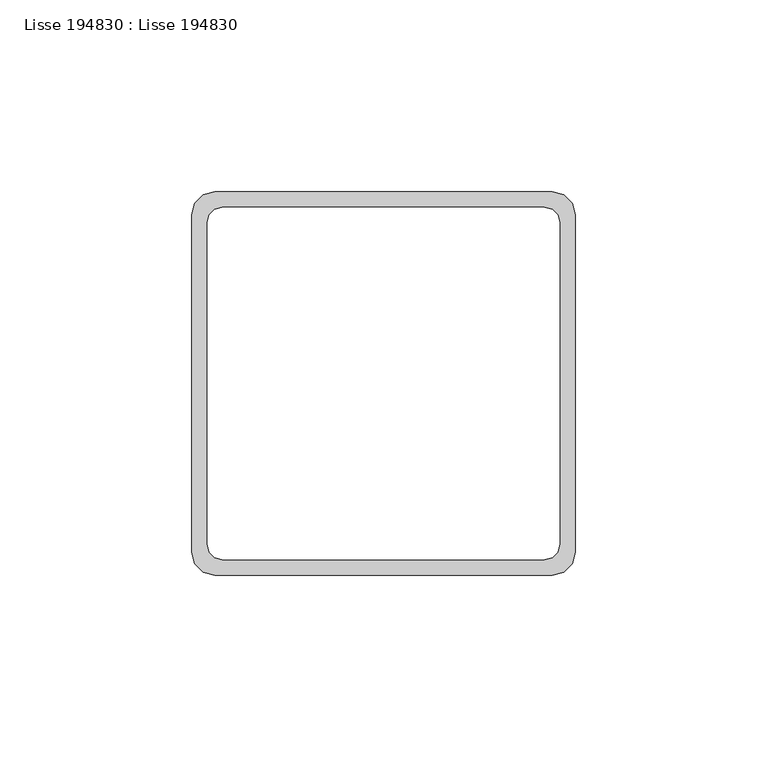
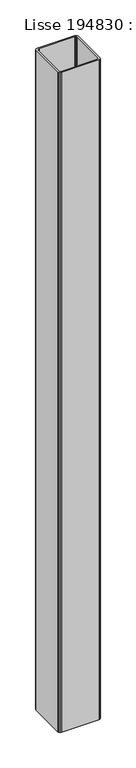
"""IFC4 building model written with IfcOpenShell, lengths in millimetres: beam geometry, Lisse 194830 : Lisse 194830."""

from ifc_helpers import new_model, si_unit, frame, origin, place, context, project, spatial, polyline, outline, extrude, source, transform, mapped, element, save


def lisse_194830_lisse_194830_e39f51cb(model_context):
    return source(origin(), model_context, "Body", "SweptSolid", [
        extrude(outline(polyline([(-180.0000001, -36506.0), (-179.1961526, -36503.0), (-177.0000001, -36500.8038476), (-174.0000001, -36500.0), (-86.0000001, -36500.0), (-83.0000001, -36500.8038476), (-80.8038477, -36503.0), (-80.0000001, -36506.0), (-80.0000001, -36594.0), (-80.8038477, -36597.0), (-83.0000001, -36599.1961524), (-86.0000001, -36600.0), (-174.0000001, -36600.0), (-177.0000001, -36599.1961524), (-179.1961526, -36597.0), (-180.0000001, -36594.0), (-180.0000001, -36506.0)]), holes=[polyline([(-176.0000001, -36592.0), (-175.4641017, -36594.0), (-174.0000001, -36595.4641016), (-172.0000001, -36596.0), (-88.0000001, -36596.0), (-86.0000001, -36595.4641016), (-84.5358985, -36594.0), (-84.0000001, -36592.0), (-84.0000001, -36508.0), (-84.5358985, -36506.0), (-86.0000001, -36504.5358984), (-88.0000001, -36504.0), (-172.0000001, -36504.0), (-174.0000001, -36504.5358984), (-175.4641017, -36506.0), (-176.0000001, -36508.0), (-176.0000001, -36592.0)])]), frame((0.0, 0.0, 1100.0), z_axis=(0.0, 0.0, 1.0), x_axis=(1.0, 0.0, 0.0)), (0.0, 0.0, 1.0), 1650.8038476),
    ])


if __name__ == "__main__":
    model = new_model("IFC4")
    model_context = context("Model", 3, world=origin())
    ifc_project = project(units=[si_unit("LENGTHUNIT", "METRE", prefix="MILLI")], contexts=[model_context])
    site = spatial("IfcSite", under=ifc_project)
    building = spatial("IfcBuilding", under=site)
    placement = place(None, origin())
    lisse_194830_lisse_194830_shape = lisse_194830_lisse_194830_e39f51cb(model_context)
    element("IfcBeam", 1, ObjectType="Lisse 194830 : Lisse 194830", at=placement, inside=building, context=model_context, shape_type="MappedRepresentation", body=[
        mapped(lisse_194830_lisse_194830_shape, transform((0.0, 0.0, 0.0), x_axis=(1.0, 0.0, 0.0), y_axis=(0.0, 1.0, 0.0), z_axis=(0.0, 0.0, 1.0))),
    ])
    save(model, "model.ifc")
